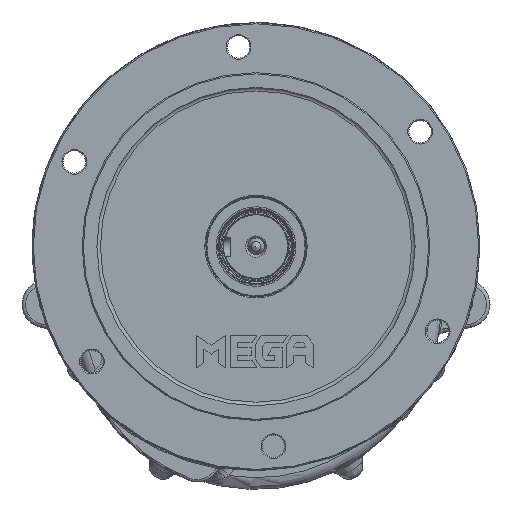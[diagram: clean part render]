
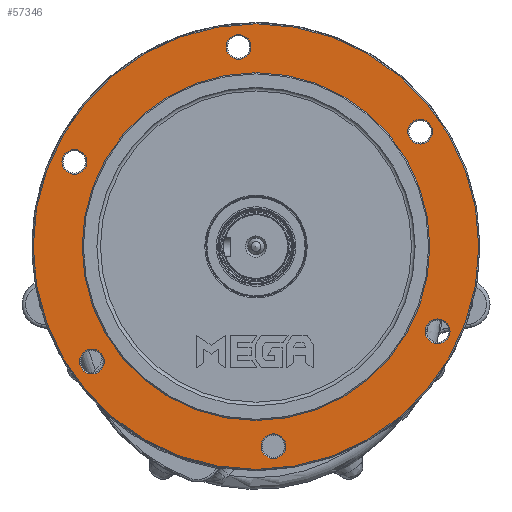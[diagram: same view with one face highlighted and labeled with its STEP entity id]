
A CAD part, front view. The second image highlights one B-rep face of the part: STEP entity #57346.
In plain terms, the highlighted planar face has unit normal (0, -1, 0).
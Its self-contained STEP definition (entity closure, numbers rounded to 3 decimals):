
#1170=FACE_BOUND('',#16606,.T.);
#1171=FACE_BOUND('',#16607,.T.);
#1172=FACE_BOUND('',#16608,.T.);
#1173=FACE_BOUND('',#16609,.T.);
#1174=FACE_BOUND('',#16610,.T.);
#1175=FACE_BOUND('',#16611,.T.);
#1176=FACE_BOUND('',#16612,.T.);
#1848=PLANE('',#62500);
#13094=FACE_OUTER_BOUND('',#16605,.T.);
#16605=EDGE_LOOP('',(#44711));
#16606=EDGE_LOOP('',(#44712));
#16607=EDGE_LOOP('',(#44713));
#16608=EDGE_LOOP('',(#44714));
#16609=EDGE_LOOP('',(#44715));
#16610=EDGE_LOOP('',(#44716));
#16611=EDGE_LOOP('',(#44717));
#16612=EDGE_LOOP('',(#44718));
#20280=CIRCLE('',#62344,147.5);
#20282=CIRCLE('',#62349,189.);
#20339=CIRCLE('',#62476,10.5);
#20342=CIRCLE('',#62481,10.5);
#20345=CIRCLE('',#62486,10.5);
#20348=CIRCLE('',#62491,10.5);
#20351=CIRCLE('',#62496,10.5);
#20354=CIRCLE('',#62501,10.5);
#24650=VERTEX_POINT('',#112304);
#24653=VERTEX_POINT('',#112323);
#24745=VERTEX_POINT('',#114118);
#24748=VERTEX_POINT('',#114128);
#24751=VERTEX_POINT('',#114138);
#24754=VERTEX_POINT('',#114148);
#24757=VERTEX_POINT('',#114158);
#24760=VERTEX_POINT('',#114168);
#31573=EDGE_CURVE('',#24650,#24650,#20280,.T.);
#31580=EDGE_CURVE('',#24653,#24653,#20282,.T.);
#31786=EDGE_CURVE('',#24745,#24745,#20339,.T.);
#31791=EDGE_CURVE('',#24748,#24748,#20342,.T.);
#31796=EDGE_CURVE('',#24751,#24751,#20345,.T.);
#31801=EDGE_CURVE('',#24754,#24754,#20348,.T.);
#31806=EDGE_CURVE('',#24757,#24757,#20351,.T.);
#31811=EDGE_CURVE('',#24760,#24760,#20354,.T.);
#44711=ORIENTED_EDGE('',*,*,#31580,.F.);
#44712=ORIENTED_EDGE('',*,*,#31806,.F.);
#44713=ORIENTED_EDGE('',*,*,#31796,.F.);
#44714=ORIENTED_EDGE('',*,*,#31786,.F.);
#44715=ORIENTED_EDGE('',*,*,#31573,.F.);
#44716=ORIENTED_EDGE('',*,*,#31791,.F.);
#44717=ORIENTED_EDGE('',*,*,#31801,.F.);
#44718=ORIENTED_EDGE('',*,*,#31811,.F.);
#57346=ADVANCED_FACE('',(#13094,#1170,#1171,#1172,#1173,#1174,#1175,#1176),
#1848,.T.);
#62344=AXIS2_PLACEMENT_3D('',#112306,#73670,#73671);
#62349=AXIS2_PLACEMENT_3D('',#112325,#73683,#73684);
#62476=AXIS2_PLACEMENT_3D('',#114119,#74025,#74026);
#62481=AXIS2_PLACEMENT_3D('',#114129,#74037,#74038);
#62486=AXIS2_PLACEMENT_3D('',#114139,#74049,#74050);
#62491=AXIS2_PLACEMENT_3D('',#114149,#74061,#74062);
#62496=AXIS2_PLACEMENT_3D('',#114159,#74073,#74074);
#62500=AXIS2_PLACEMENT_3D('',#114167,#74083,#74084);
#62501=AXIS2_PLACEMENT_3D('',#114169,#74085,#74086);
#73670=DIRECTION('center_axis',(0.,-1.,0.));
#73671=DIRECTION('ref_axis',(-1.,0.,0.));
#73683=DIRECTION('center_axis',(0.,1.,0.));
#73684=DIRECTION('ref_axis',(-1.,0.,0.));
#74025=DIRECTION('center_axis',(0.,-1.,0.));
#74026=DIRECTION('ref_axis',(-1.,0.,0.));
#74037=DIRECTION('center_axis',(0.,-1.,0.));
#74038=DIRECTION('ref_axis',(-0.5,0.,0.866));
#74049=DIRECTION('center_axis',(0.,-1.,0.));
#74050=DIRECTION('ref_axis',(0.5,0.,0.866));
#74061=DIRECTION('center_axis',(0.,-1.,0.));
#74062=DIRECTION('ref_axis',(1.,0.,0.));
#74073=DIRECTION('center_axis',(0.,-1.,0.));
#74074=DIRECTION('ref_axis',(0.5,0.,-0.866));
#74083=DIRECTION('center_axis',(0.,-1.,0.));
#74084=DIRECTION('ref_axis',(0.,0.,-1.));
#74085=DIRECTION('center_axis',(0.,-1.,0.));
#74086=DIRECTION('ref_axis',(-0.5,0.,-0.866));
#112304=CARTESIAN_POINT('',(147.728,-213.228,47.25));
#112306=CARTESIAN_POINT('Origin',(0.228,-213.228,47.25));
#112323=CARTESIAN_POINT('',(189.228,-213.228,47.25));
#112325=CARTESIAN_POINT('Origin',(0.228,-213.228,47.25));
#114118=CARTESIAN_POINT('',(-4.088,-213.228,216.603));
#114119=CARTESIAN_POINT('Origin',(-14.588,-213.228,216.603));
#114128=CARTESIAN_POINT('',(144.734,-213.228,135.665));
#114129=CARTESIAN_POINT('Origin',(139.484,-213.228,144.758));
#114138=CARTESIAN_POINT('',(149.051,-213.228,-33.688));
#114139=CARTESIAN_POINT('Origin',(154.301,-213.228,-24.595));
#114148=CARTESIAN_POINT('',(4.545,-213.228,-122.103));
#114149=CARTESIAN_POINT('Origin',(15.045,-213.228,-122.103));
#114158=CARTESIAN_POINT('',(-144.277,-213.228,-41.165));
#114159=CARTESIAN_POINT('Origin',(-139.027,-213.228,-50.258));
#114167=CARTESIAN_POINT('Origin',(0.228,-213.228,47.25));
#114168=CARTESIAN_POINT('',(-148.594,-213.228,128.188));
#114169=CARTESIAN_POINT('Origin',(-153.844,-213.228,119.095));
